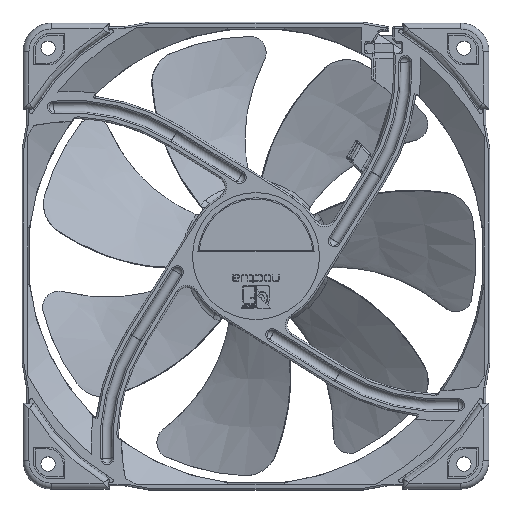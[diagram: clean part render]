
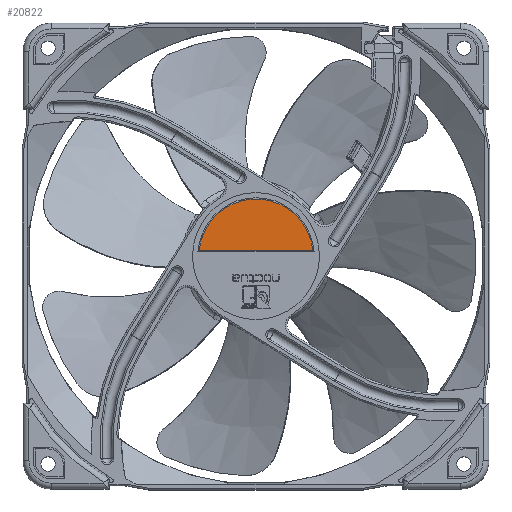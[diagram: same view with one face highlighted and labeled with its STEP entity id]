
A CAD part, top view. The second image highlights one B-rep face of the part: STEP entity #20822.
In plain terms, the highlighted planar face has unit normal (0, 0, 1).
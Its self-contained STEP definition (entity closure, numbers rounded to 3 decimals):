
#849=PLANE('',#23958);
#1823=CIRCLE('',#23814,17.1);
#8793=ORIENTED_EDGE('',*,*,#11646,.T.);
#8794=ORIENTED_EDGE('',*,*,#11649,.T.);
#11646=EDGE_CURVE('',#13747,#13748,#14998,.T.);
#11649=EDGE_CURVE('',#13748,#13747,#1823,.T.);
#13747=VERTEX_POINT('',#50224);
#13748=VERTEX_POINT('',#50225);
#14998=LINE('',#50223,#16308);
#16308=VECTOR('',#28768,1000.);
#17857=EDGE_LOOP('',(#8793,#8794));
#19191=FACE_BOUND('',#17857,.T.);
#20822=ADVANCED_FACE('',(#19191),#849,.F.);
#23814=AXIS2_PLACEMENT_3D('',#50229,#28773,#28774);
#23958=AXIS2_PLACEMENT_3D('',#51297,#29279,#29280);
#28768=DIRECTION('',(-1.,0.,0.));
#28773=DIRECTION('',(0.,0.,1.));
#28774=DIRECTION('',(1.,0.,0.));
#29279=DIRECTION('',(0.,0.,-1.));
#29280=DIRECTION('',(-1.,0.,0.));
#50223=CARTESIAN_POINT('',(17.02,-1.65,0.5));
#50224=CARTESIAN_POINT('',(17.02,-1.65,0.5));
#50225=CARTESIAN_POINT('',(-17.02,-1.65,0.5));
#50229=CARTESIAN_POINT('',(0.,0.,0.5));
#51297=CARTESIAN_POINT('',(0.,0.,0.5));
